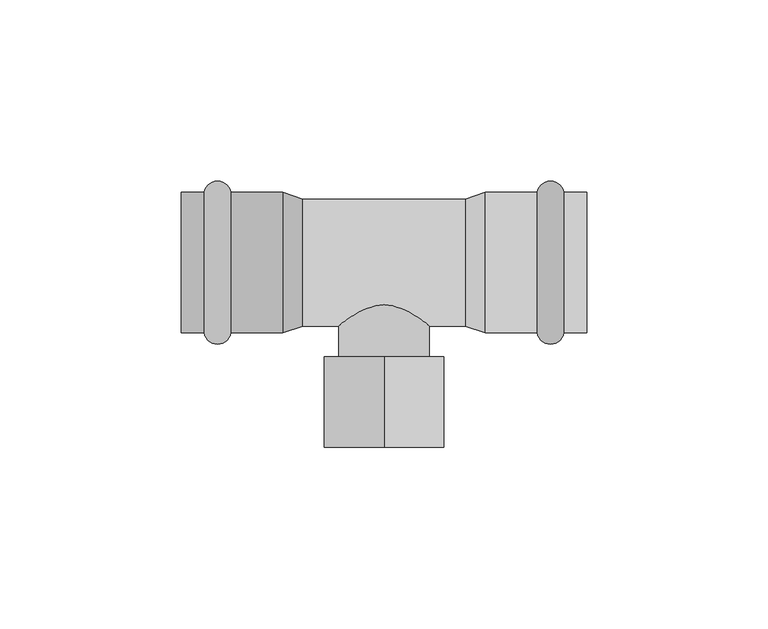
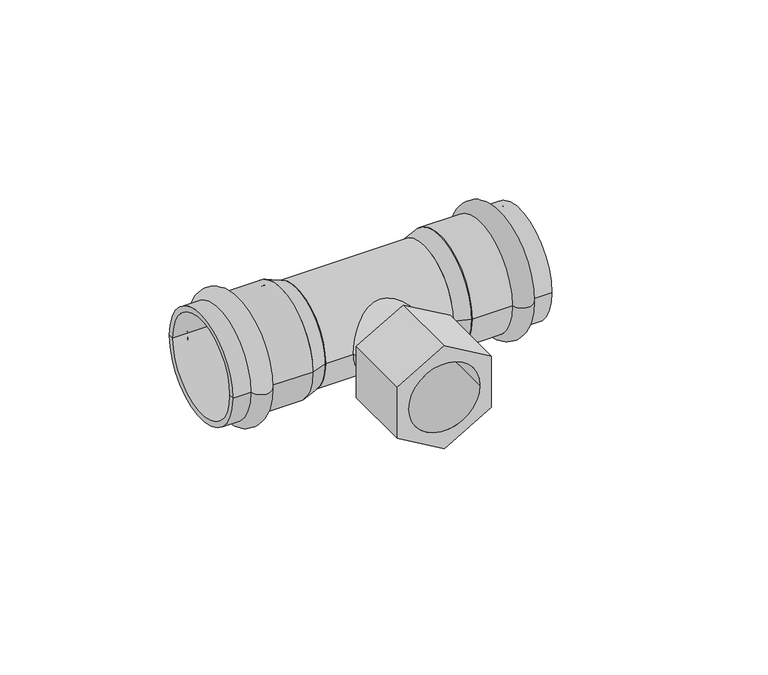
"""IFC4 building model written with IfcOpenShell, lengths in millimetres: pipe fitting geometry, VALTEC_VTi.932.I_Тройник с переходом на внутреннюю резьбу нержавеющая сталь : VTi.932.I."""

from ifc_helpers import new_model, si_unit, point, frame, origin, origin_2d, place, context, project, spatial, polyline, circle_curve, ellipse_curve, trimmed, segment, composite_curve, outline, extrude, source, transform, mapped, element, save
from ifc_brep_helpers import plane_surface, cylinder_surface, revolved_surface, advanced_brep


def pipe_fitting_f28927d7(model_context):
    return source(origin(), model_context, "Body", "SolidModel", [
        advanced_brep(
        [(49.6432371, 19.4, 0.0), (49.6432371, -19.4, 0.0), (42.2567629, -19.4, 0.0), (42.2567629, 19.4, 0.0), (56.0, 19.4, 0.0), (56.0, -19.4, 0.0), (56.0, 17.5, 0.0), (56.0, -17.5, 0.0), (28.0, 17.5, 0.0), (28.0, -17.5, 0.0), (28.0, 19.4, 0.0), (28.0, -19.4, 0.0)],
        [
            (0, 1, circle_curve(frame((49.6432371, 0.0, 0.0), z_axis=(-1.0, 0.0, 0.0), x_axis=(0.0, -1.0, 0.0)), 19.4)),
            (1, 2, circle_curve(frame((45.95, -18.75, 0.0), z_axis=(0.0, 0.0, -1.0), x_axis=(-1.0, 0.0, 0.0)), 3.75)),
            (2, 3, circle_curve(frame((42.2567629, 0.0, 0.0), z_axis=(1.0, 0.0, 0.0), x_axis=(0.0, -1.0, 0.0)), 19.4)),
            (3, 0, circle_curve(frame((45.95, 18.75, 0.0), z_axis=(0.0, 0.0, -1.0), x_axis=(-1.0, 0.0, 0.0)), 3.75)),
            (1, 0, circle_curve(frame((49.6432371, 0.0, 0.0), z_axis=(-1.0, 0.0, 0.0), x_axis=(0.0, -1.0, 0.0)), 19.4)),
            (3, 2, circle_curve(frame((42.2567629, 0.0, 0.0), z_axis=(1.0, 0.0, 0.0), x_axis=(0.0, -1.0, 0.0)), 19.4)),
            (4, 5, circle_curve(frame((56.0, 0.0, 0.0), z_axis=(-1.0, 0.0, 0.0), x_axis=(0.0, -1.0, 0.0)), 19.4)),
            (5, 1),
            (0, 4),
            (5, 4, circle_curve(frame((56.0, 0.0, 0.0), z_axis=(-1.0, 0.0, 0.0), x_axis=(0.0, -1.0, 0.0)), 19.4)),
            (6, 7, circle_curve(frame((56.0, 0.0, 0.0), z_axis=(-1.0, 0.0, 0.0), x_axis=(0.0, -1.0, 0.0)), 17.5)),
            (7, 5),
            (4, 6),
            (7, 6, circle_curve(frame((56.0, 0.0, 0.0), z_axis=(-1.0, 0.0, 0.0), x_axis=(0.0, -1.0, 0.0)), 17.5)),
            (8, 9, circle_curve(frame((28.0, 0.0, 0.0), z_axis=(-1.0, 0.0, 0.0), x_axis=(0.0, -1.0, 0.0)), 17.5)),
            (9, 7),
            (6, 8),
            (9, 8, circle_curve(frame((28.0, 0.0, 0.0), z_axis=(-1.0, 0.0, 0.0), x_axis=(0.0, -1.0, 0.0)), 17.5)),
            (10, 11, circle_curve(frame((28.0, 0.0, 0.0), z_axis=(-1.0, 0.0, 0.0), x_axis=(0.0, -1.0, 0.0)), 19.4)),
            (11, 9),
            (8, 10),
            (11, 10, circle_curve(frame((28.0, 0.0, 0.0), z_axis=(-1.0, 0.0, 0.0), x_axis=(0.0, -1.0, 0.0)), 19.4)),
            (2, 11),
            (10, 3),
        ],
        [
            revolved_surface(trimmed(ellipse_curve(frame((45.95, -18.75, 0.0), z_axis=(0.0, 0.0, 1.0), x_axis=(-1.0, 0.0, 0.0)), 3.75, 3.75), [point((42.2567629, -19.4, 0.0))], [point((49.6432371, -19.4, 0.0))], True, "CARTESIAN"), (59.5364426, 0.0, 0.0), (1.0, 0.0, 0.0)),
            cylinder_surface(frame((59.5364426, 0.0, 0.0), z_axis=(1.0, 0.0, 0.0), x_axis=(0.0, -1.0, 0.0)), 19.4),
            plane_surface(frame((56.0, 0.0, 0.0), z_axis=(1.0, 0.0, 0.0), x_axis=(0.0, -1.0, 0.0))),
            revolved_surface(polyline([(56.0, -17.5, 0.0), (28.0, -17.5, 0.0)]), (59.5364426, 0.0, 0.0), (1.0, 0.0, 0.0)),
            plane_surface(frame((28.0, 0.0, 0.0), z_axis=(-1.0, 0.0, 0.0), x_axis=(0.0, -1.0, 0.0))),
        ],
        [
            (0, [[1, 2, 3, 4]]),
            (0, [[5, -4, 6, -2]]),
            (1, [[7, 8, -1, 9]]),
            (1, [[10, -9, -5, -8]]),
            (2, [[11, 12, -7, 13]]),
            (2, [[14, -13, -10, -12]]),
            (3, [[15, 16, -11, 17]]),
            (3, [[18, -17, -14, -16]]),
            (4, [[19, 20, -15, 21]]),
            (4, [[22, -21, -18, -20]]),
            (1, [[-3, 23, -19, 24]]),
            (1, [[-6, -24, -22, -23]]),
        ],
    ),
        advanced_brep(
        [(-49.6432371, -19.4, 0.0), (-49.6432371, 19.4, 0.0), (-42.2567629, 19.4, 0.0), (-42.2567629, -19.4, 0.0), (-56.0, -19.4, 0.0), (-56.0, 19.4, 0.0), (-56.0, -17.5, 0.0), (-56.0, 17.5, 0.0), (-28.0, -17.5, 0.0), (-28.0, 17.5, 0.0), (-28.0, -19.4, 0.0), (-28.0, 19.4, 0.0)],
        [
            (0, 1, circle_curve(frame((-49.6432371, 0.0, 0.0), z_axis=(1.0, 0.0, 0.0), x_axis=(0.0, 1.0, 0.0)), 19.4)),
            (1, 2, circle_curve(frame((-45.95, 18.75, 0.0), z_axis=(0.0, 0.0, -1.0), x_axis=(1.0, 0.0, 0.0)), 3.75)),
            (2, 3, circle_curve(frame((-42.2567629, 0.0, 0.0), z_axis=(-1.0, 0.0, 0.0), x_axis=(0.0, 1.0, 0.0)), 19.4)),
            (3, 0, circle_curve(frame((-45.95, -18.75, 0.0), z_axis=(0.0, 0.0, -1.0), x_axis=(1.0, 0.0, 0.0)), 3.75)),
            (1, 0, circle_curve(frame((-49.6432371, 0.0, 0.0), z_axis=(1.0, 0.0, 0.0), x_axis=(0.0, 1.0, 0.0)), 19.4)),
            (3, 2, circle_curve(frame((-42.2567629, 0.0, 0.0), z_axis=(-1.0, 0.0, 0.0), x_axis=(0.0, 1.0, 0.0)), 19.4)),
            (4, 5, circle_curve(frame((-56.0, 0.0, 0.0), z_axis=(1.0, 0.0, 0.0), x_axis=(0.0, 1.0, 0.0)), 19.4)),
            (5, 1),
            (0, 4),
            (5, 4, circle_curve(frame((-56.0, 0.0, 0.0), z_axis=(1.0, 0.0, 0.0), x_axis=(0.0, 1.0, 0.0)), 19.4)),
            (6, 7, circle_curve(frame((-56.0, 0.0, 0.0), z_axis=(1.0, 0.0, 0.0), x_axis=(0.0, 1.0, 0.0)), 17.5)),
            (7, 5),
            (4, 6),
            (7, 6, circle_curve(frame((-56.0, 0.0, 0.0), z_axis=(1.0, 0.0, 0.0), x_axis=(0.0, 1.0, 0.0)), 17.5)),
            (8, 9, circle_curve(frame((-28.0, 0.0, 0.0), z_axis=(1.0, 0.0, 0.0), x_axis=(0.0, 1.0, 0.0)), 17.5)),
            (9, 7),
            (6, 8),
            (9, 8, circle_curve(frame((-28.0, 0.0, 0.0), z_axis=(1.0, 0.0, 0.0), x_axis=(0.0, 1.0, 0.0)), 17.5)),
            (10, 11, circle_curve(frame((-28.0, 0.0, 0.0), z_axis=(1.0, 0.0, 0.0), x_axis=(0.0, 1.0, 0.0)), 19.4)),
            (11, 9),
            (8, 10),
            (11, 10, circle_curve(frame((-28.0, 0.0, 0.0), z_axis=(1.0, 0.0, 0.0), x_axis=(0.0, 1.0, 0.0)), 19.4)),
            (2, 11),
            (10, 3),
        ],
        [
            revolved_surface(trimmed(ellipse_curve(frame((-45.95, 18.75, 0.0), z_axis=(0.0, 0.0, 1.0), x_axis=(1.0, 0.0, 0.0)), 3.75, 3.75), [point((-42.2567629, 19.4, 0.0))], [point((-49.6432371, 19.4, 0.0))], True, "CARTESIAN"), (-59.5364426, 0.0, 0.0), (-1.0, 0.0, 0.0)),
            cylinder_surface(frame((-59.5364426, 0.0, 0.0), z_axis=(-1.0, 0.0, 0.0), x_axis=(0.0, 1.0, 0.0)), 19.4),
            plane_surface(frame((-56.0, 0.0, 0.0), z_axis=(-1.0, 0.0, 0.0), x_axis=(0.0, 1.0, 0.0))),
            revolved_surface(polyline([(-56.0, 17.5, 0.0), (-28.0, 17.5, 0.0)]), (-59.5364426, 0.0, 0.0), (-1.0, 0.0, 0.0)),
            plane_surface(frame((-28.0, 0.0, 0.0), z_axis=(1.0, 0.0, 0.0), x_axis=(0.0, 1.0, 0.0))),
        ],
        [
            (0, [[1, 2, 3, 4]]),
            (0, [[5, -4, 6, -2]]),
            (1, [[7, 8, -1, 9]]),
            (1, [[10, -9, -5, -8]]),
            (2, [[11, 12, -7, 13]]),
            (2, [[14, -13, -10, -12]]),
            (3, [[15, 16, -11, 17]]),
            (3, [[18, -17, -14, -16]]),
            (4, [[19, 20, -15, 21]]),
            (4, [[22, -21, -18, -20]]),
            (1, [[-3, 23, -19, 24]]),
            (1, [[-6, -24, -22, -23]]),
        ],
    ),
        extrude(outline(polyline([(19.0525589, 0.0), (9.5262794, -16.5), (-9.5262794, -16.5), (-19.0525589, 0.0), (-9.5262794, 16.5), (9.5262794, 16.5), (19.0525589, 0.0)]), holes=[composite_curve([segment(trimmed(circle_curve(origin_2d(), 12.5), [point((0.0, -12.5))], [point((0.0, 12.5))], True, "CARTESIAN"), True, "CONTINUOUS"), segment(trimmed(circle_curve(origin_2d(), 12.5), [point((0.0, 12.5))], [point((0.0, -12.5))], True, "CARTESIAN"), True, "CONTINUOUS")], self_intersect=False)]), frame((0.0, -51.0, 0.0), z_axis=(0.0, 1.0, 0.0), x_axis=(0.0, 0.0, 1.0)), (0.0, 0.0, 1.0), 25.0),
        extrude(outline(composite_curve([segment(trimmed(circle_curve(origin_2d(), 12.5), [point((0.0, -12.5))], [point((0.0, 12.5))], False, "CARTESIAN"), True, "CONTINUOUS"), segment(trimmed(circle_curve(origin_2d(), 12.5), [point((0.0, 12.5))], [point((0.0, -12.5))], False, "CARTESIAN"), True, "CONTINUOUS")], self_intersect=False)), frame((0.0, -26.0, 0.0), z_axis=(0.0, 1.0, 0.0), x_axis=(0.0, 0.0, 1.0)), (0.0, 0.0, 1.0), 26.0),
        extrude(outline(composite_curve([segment(trimmed(circle_curve(origin_2d(), 17.5), [point((-17.5, 0.0))], [point((17.5, 0.0))], False, "CARTESIAN"), True, "CONTINUOUS"), segment(trimmed(circle_curve(origin_2d(), 17.5), [point((17.5, 0.0))], [point((-17.5, 0.0))], False, "CARTESIAN"), True, "CONTINUOUS")], self_intersect=False)), frame((-22.4, 0.0, 0.0), z_axis=(1.0, 0.0, 0.0), x_axis=(0.0, 1.0, 0.0)), (0.0, 0.0, 1.0), 44.8),
        advanced_brep(
        [(28.0, -19.4, 0.0), (28.0, 19.4, 0.0), (22.4, -17.5, 0.0), (22.4, 17.5, 0.0)],
        [
            (0, 1, circle_curve(frame((28.0, 0.0, 0.0), z_axis=(1.0, 0.0, 0.0), x_axis=(0.0, -1.0, 0.0)), 19.4)),
            (1, 0, circle_curve(frame((28.0, 0.0, 0.0), z_axis=(1.0, 0.0, 0.0), x_axis=(0.0, 1.0, 0.0)), 19.4)),
            (2, 3, circle_curve(frame((22.4, 0.0, 0.0), z_axis=(-1.0, 0.0, 0.0), x_axis=(0.0, 1.0, 0.0)), 17.5)),
            (3, 2, circle_curve(frame((22.4, 0.0, 0.0), z_axis=(-1.0, 0.0, 0.0), x_axis=(0.0, -1.0, 0.0)), 17.5)),
            (3, 1),
            (0, 2),
        ],
        [
            plane_surface(frame((28.0, 0.0, 0.0), z_axis=(1.0, 0.0, 0.0), x_axis=(0.0, 0.0, 1.0))),
            plane_surface(frame((22.4, 0.0, 0.0), z_axis=(-1.0, 0.0, 0.0), x_axis=(0.0, 0.0, 1.0))),
            revolved_surface(polyline([(22.4, 17.500000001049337, 0.0), (28.0, 19.4, 0.0)]), (-29.1789474, 0.0, 0.0), (1.0, 0.0, 0.0)),
            revolved_surface(polyline([(22.4, -17.500000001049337, 0.0), (28.0, -19.4, 0.0)]), (-29.1789474, 0.0, 0.0), (1.0, 0.0, 0.0)),
        ],
        [
            (0, [[1, 2]]),
            (1, [[3, 4]]),
            (2, [[-4, 5, -1, 6]]),
            (3, [[-3, -6, -2, -5]]),
        ],
    ),
        advanced_brep(
        [(-28.0, -19.4, 0.0), (-28.0, 19.4, 0.0), (-22.4, -17.5, 0.0), (-22.4, 17.5, 0.0)],
        [
            (0, 1, circle_curve(frame((-28.0, 0.0, 0.0), z_axis=(-1.0, 0.0, 0.0), x_axis=(0.0, -1.0, 0.0)), 19.4)),
            (1, 0, circle_curve(frame((-28.0, 0.0, 0.0), z_axis=(-1.0, 0.0, 0.0), x_axis=(0.0, 1.0, 0.0)), 19.4)),
            (2, 3, circle_curve(frame((-22.4, 0.0, 0.0), z_axis=(1.0, 0.0, 0.0), x_axis=(0.0, 1.0, 0.0)), 17.5)),
            (3, 2, circle_curve(frame((-22.4, 0.0, 0.0), z_axis=(1.0, 0.0, 0.0), x_axis=(0.0, -1.0, 0.0)), 17.5)),
            (2, 0),
            (1, 3),
        ],
        [
            plane_surface(frame((-28.0, 0.0, 0.0), z_axis=(-1.0, 0.0, 0.0), x_axis=(0.0, 0.0, -1.0))),
            plane_surface(frame((-22.4, 0.0, 0.0), z_axis=(1.0, 0.0, 0.0), x_axis=(0.0, 0.0, -1.0))),
            revolved_surface(polyline([(-22.4, -17.500000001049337, 0.0), (-28.0, -19.4, 0.0)]), (29.1789474, 0.0, 0.0), (-1.0, 0.0, 0.0)),
            revolved_surface(polyline([(-22.4, 17.500000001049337, 0.0), (-28.0, 19.4, 0.0)]), (29.1789474, 0.0, 0.0), (-1.0, 0.0, 0.0)),
        ],
        [
            (0, [[1, 2]]),
            (1, [[3, 4]]),
            (2, [[-3, 5, -2, 6]]),
            (3, [[-4, -6, -1, -5]]),
        ],
    ),
    ])


if __name__ == "__main__":
    model = new_model("IFC4")
    model_context = context("Model", 3, world=origin())
    ifc_project = project(units=[si_unit("LENGTHUNIT", "METRE", prefix="MILLI")], contexts=[model_context])
    site = spatial("IfcSite", under=ifc_project)
    building = spatial("IfcBuilding", under=site)
    placement = place(None, origin())
    pipe_fitting_shape = pipe_fitting_f28927d7(model_context)
    element("IfcPipeFitting", 1, ObjectType="VALTEC_VTi.932.I_Тройник с переходом на внутреннюю резьбу нержавеющая сталь : VTi.932.I", at=placement, inside=building, context=model_context, shape_type="MappedRepresentation", body=[
        mapped(pipe_fitting_shape, transform((0.0, 0.0, 0.0), x_axis=(1.0, 0.0, 0.0), y_axis=(0.0, 1.0, 0.0), z_axis=(0.0, 0.0, 1.0))),
    ])
    save(model, "model.ifc")
